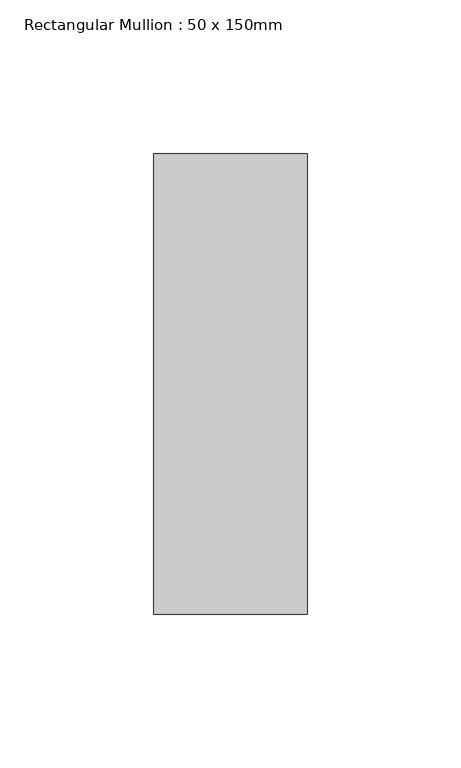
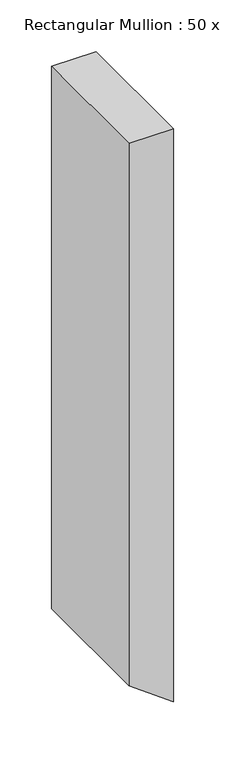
"""IFC4 building model written with IfcOpenShell, lengths in millimetres: member geometry, Rectangular Mullion : 50 x 150mm."""

from ifc_helpers import new_model, si_unit, frame, origin, place, context, project, spatial, polyline, outline, extrude, source, transform, mapped, element, save


def rectangular_mullion_50_x_150mm_f9d87fdc(model_context):
    return source(origin(), model_context, "Body", "SweptSolid", [
        extrude(outline(polyline([(0.0, 25.0), (0.0, -25.0), (-641.1660905, -25.0), (-677.4932169, 25.0), (0.0, 25.0)])), frame((0.0, -75.0, 0.0), z_axis=(0.0, 1.0, 0.0), x_axis=(0.0, 0.0, 1.0)), (0.0, 0.0, 1.0), 150.0),
    ])


if __name__ == "__main__":
    model = new_model("IFC4")
    model_context = context("Model", 3, world=origin())
    ifc_project = project(units=[si_unit("LENGTHUNIT", "METRE", prefix="MILLI")], contexts=[model_context])
    site = spatial("IfcSite", under=ifc_project)
    building = spatial("IfcBuilding", under=site)
    placement = place(None, origin())
    rectangular_mullion_50_x_150mm_shape = rectangular_mullion_50_x_150mm_f9d87fdc(model_context)
    element("IfcMember", 1, ObjectType="Rectangular Mullion : 50 x 150mm", at=placement, inside=building, context=model_context, shape_type="MappedRepresentation", body=[
        mapped(rectangular_mullion_50_x_150mm_shape, transform((0.0, 0.0, 0.0), x_axis=(1.0, 0.0, 0.0), y_axis=(0.0, 1.0, 0.0), z_axis=(0.0, 0.0, 1.0))),
    ])
    save(model, "model.ifc")
